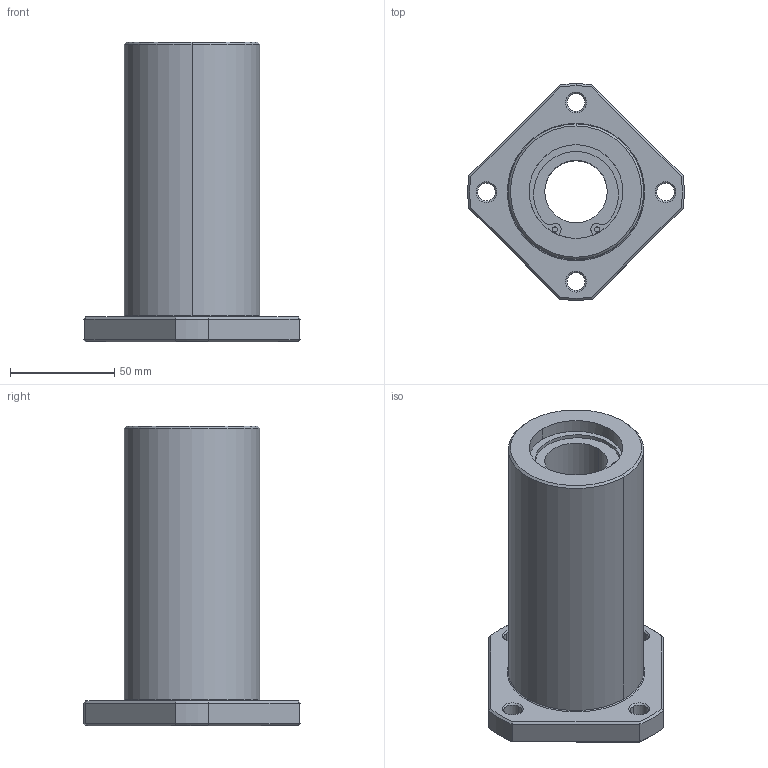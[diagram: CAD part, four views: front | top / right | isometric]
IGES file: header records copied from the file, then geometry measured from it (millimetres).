
Start section: 3D InterOp IGES (Version 21 0 1), Spatial Corp. Copyright (c) 1999-2007.
Global section: file name: LCF-30AVUU.igs; native system: Spatial Corp.; preprocessor: 3D InterOp GENERIC/IGES 3.0; author: Noname; organization: Noname; date: 20220517.163224; units: millimetre
Bounding box: 103.86 x 103.93 x 144 mm (x, y, z)
Surface area: 57542.9 mm2 (no closed solid volume)
Topology: 0 solids, 0 shells, 109 faces, 532 edges, 532 vertices
Faces by surface type: revolution 81, extrusion 28
